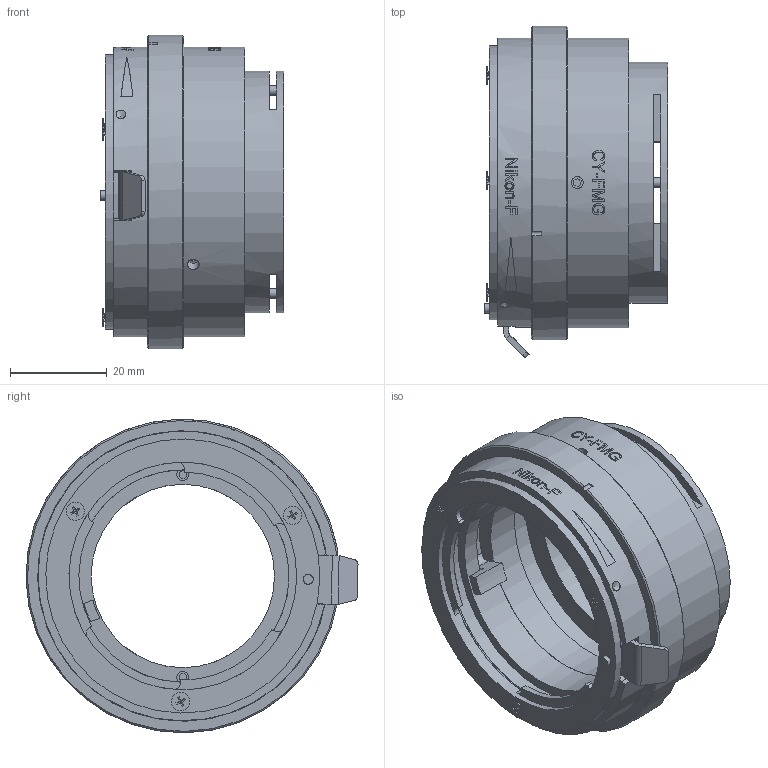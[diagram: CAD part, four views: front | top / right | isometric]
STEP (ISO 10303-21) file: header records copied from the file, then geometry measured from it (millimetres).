
FILE_DESCRIPTION(/* description */ ('CY-FMG'),/* implementation_level */ '2;1');
FILE_NAME(/* name */ 'C:\Optronis\Inv\Modelle 3D\1200-3D\CY-FMG.stp',/* time_stamp */ '2019-12-09T14:49:40+01:00',/* author */ ('Albert Nuber'),/* organization */ ('Optronis GmbH'),/* preprocessor_version */ 'ST-DEVELOPER v18',/* originating_system */ 'Autodesk Inventor 2020',/* authorisation */ '');
FILE_SCHEMA (('AUTOMOTIVE_DESIGN { 1 0 10303 214 3 1 1 }'));
Length unit declared in the file: millimetre
Products named in the file (1): CY-FMG
Bounding box: 37.95 x 68.79 x 64.99 mm (x, y, z)
Surface area: 26628.6 mm2 (no closed solid volume)
Topology: 0 solids, 22 shells, 410 faces, 1558 edges, 1185 vertices
Faces by surface type: plane 249, bspline 79, cylinder 72, cone 10
Full cylindrical faces by diameter (mm): 2 x5, 2.1 x1, 2.459 x5, 3.8 x3, 38 x1, 44 x2, 47.2 x1, 47.8 x1, 48 x1, 50 x1, 54.9 x1, 55 x1, 56.8 x1, 60 x3, 60.2 x2, 65 x1
Entity records: 23789 total; most frequent: CARTESIAN_POINT 10684, ORIENTED_EDGE 2565, DIRECTION 2251, EDGE_CURVE 1557, VERTEX_POINT 1185, LINE 919, VECTOR 919, AXIS2_PLACEMENT_3D 666
